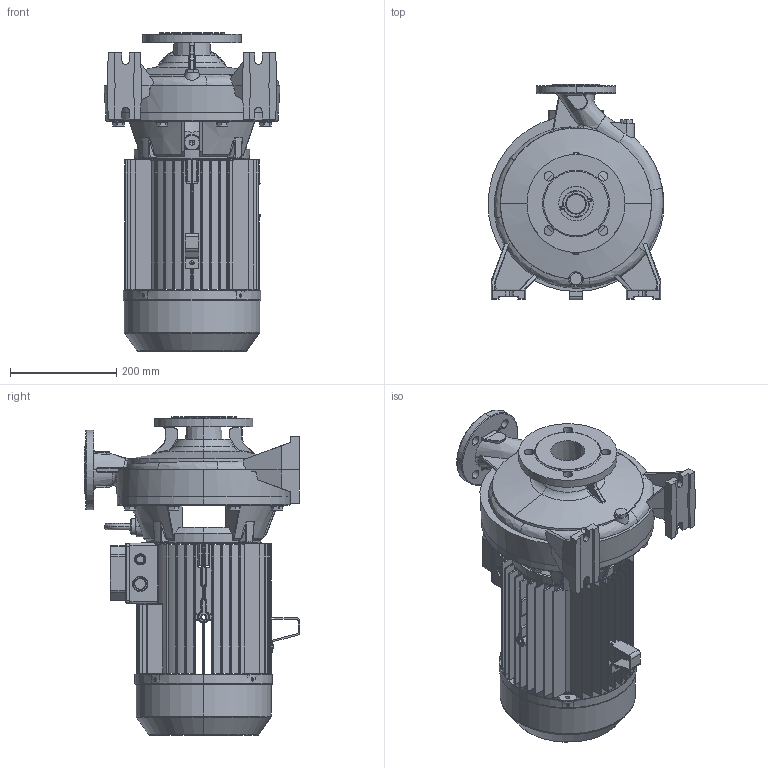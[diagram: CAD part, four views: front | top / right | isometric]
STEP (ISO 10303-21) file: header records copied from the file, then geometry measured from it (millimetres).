
FILE_DESCRIPTION (( 'STEP AP203' ), '1' );
FILE_NAME ('CN40-250B.STEP', '2020-03-05T16:50:14', ( '' ), ( '' ), 'SwSTEP 2.0', 'SolidWorks 2019', '' );
FILE_SCHEMA (( 'CONFIG_CONTROL_DESIGN' ));
Length unit declared in the file: millimetre
Products named in the file (2): CN40-250B
Bounding box: 331.56 x 406 x 600 mm (x, y, z)
Surface area: 1422178.9 mm2 (no closed solid volume)
Topology: 0 solids, 35 shells, 2106 faces, 7305 edges, 5064 vertices
Faces by surface type: plane 996, cylinder 519, cone 205, torus 198, bspline 182, sphere 6
Entity records: 111265 total; most frequent: CARTESIAN_POINT 52604, ORIENTED_EDGE 11383, DIRECTION 11233, EDGE_CURVE 7279, VERTEX_POINT 5064, VECTOR 3799, LINE 3799, AXIS2_PLACEMENT_3D 3717
